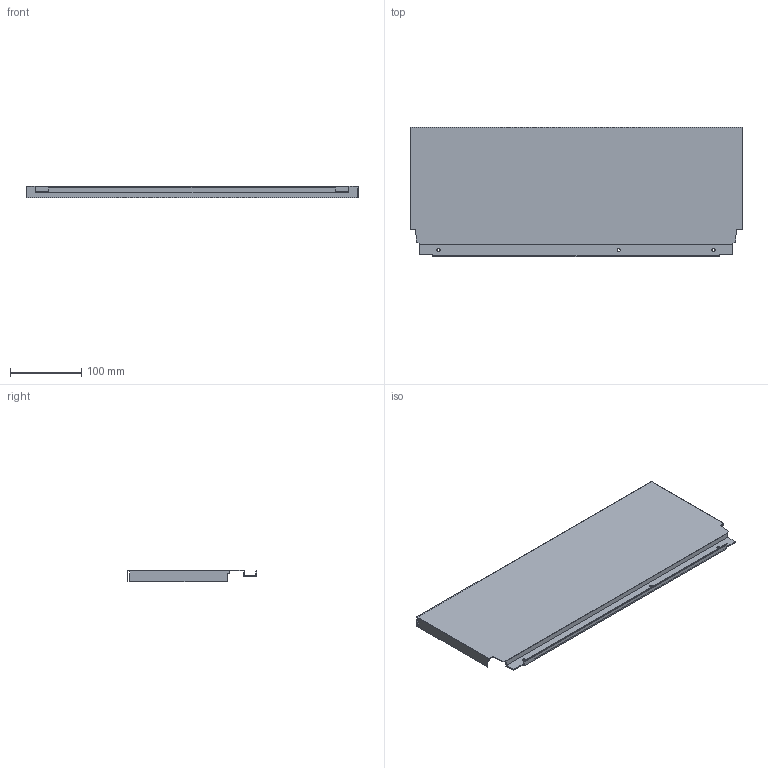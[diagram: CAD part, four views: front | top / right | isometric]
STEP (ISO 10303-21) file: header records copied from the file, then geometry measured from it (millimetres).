
FILE_DESCRIPTION (( 'STEP AP214' ), '1' );
FILE_NAME ('_DWD_XP Stahlrückwand_H182_KAB550_S16.step', '2010-07-08T12:57:33', ( 'grass' ), ( '' ), 'SwSTEP 2.0', 'SolidWorks 2010', '' );
FILE_SCHEMA (( 'AUTOMOTIVE_DESIGN' ));
Length unit declared in the file: millimetre
Products named in the file (1): _DWD_XP Stahlrückwand_H182_KAB550_S16
Bounding box: 467 x 182.49 x 16 mm (x, y, z)
Volume: 88247.6 mm3; surface area: 204975.9 mm2
Topology: 1 solids, 1 shells, 46 faces, 132 edges, 88 vertices
Faces by surface type: plane 40, cylinder 6
Entity records: 1534 total; most frequent: CARTESIAN_POINT 267, ORIENTED_EDGE 264, DIRECTION 238, EDGE_CURVE 132, VECTOR 120, LINE 120, VERTEX_POINT 88, AXIS2_PLACEMENT_3D 59
